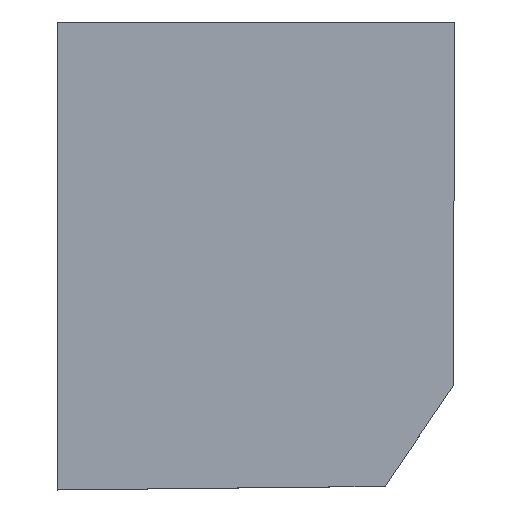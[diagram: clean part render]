
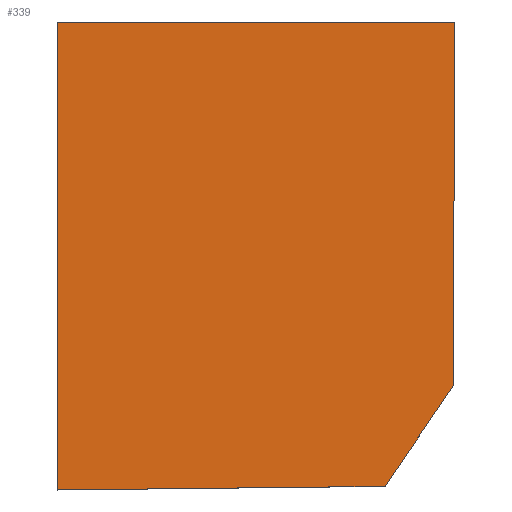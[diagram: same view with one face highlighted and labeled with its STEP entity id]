
A CAD part, top view. The second image highlights one B-rep face of the part: STEP entity #339.
In plain terms, the highlighted planar face has unit normal (0, 0, 1).
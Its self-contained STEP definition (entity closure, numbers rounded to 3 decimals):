
#24 = VERTEX_POINT('',#25);
#25 = CARTESIAN_POINT('',(-31.,-197.,20.));
#32 = PLANE('',#33);
#33 = AXIS2_PLACEMENT_3D('',#34,#35,#36);
#34 = CARTESIAN_POINT('',(-31.,-197.,17.));
#35 = DIRECTION('',(-0.011,1.,0.));
#36 = DIRECTION('',(1.,0.011,0.));
#44 = PLANE('',#45);
#45 = AXIS2_PLACEMENT_3D('',#46,#47,#48);
#46 = CARTESIAN_POINT('',(-31.,197.,17.));
#47 = DIRECTION('',(1.,0.,-0.));
#48 = DIRECTION('',(0.,-1.,0.));
#56 = EDGE_CURVE('',#24,#57,#59,.T.);
#57 = VERTEX_POINT('',#58);
#58 = CARTESIAN_POINT('',(60.,-196.,20.));
#59 = SURFACE_CURVE('',#60,(#64,#71),.PCURVE_S1.);
#60 = LINE('',#61,#62);
#61 = CARTESIAN_POINT('',(-31.,-197.,20.));
#62 = VECTOR('',#63,1.);
#63 = DIRECTION('',(1.,0.011,0.));
#64 = PCURVE('',#32,#65);
#65 = DEFINITIONAL_REPRESENTATION('',(#66),#70);
#66 = LINE('',#67,#68);
#67 = CARTESIAN_POINT('',(0.,-3.));
#68 = VECTOR('',#69,1.);
#69 = DIRECTION('',(1.,0.));
#70 = ( GEOMETRIC_REPRESENTATION_CONTEXT(2) 
PARAMETRIC_REPRESENTATION_CONTEXT() REPRESENTATION_CONTEXT('2D SPACE',''
  ) );
#71 = PCURVE('',#72,#77);
#72 = PLANE('',#73);
#73 = AXIS2_PLACEMENT_3D('',#74,#75,#76);
#74 = CARTESIAN_POINT('',(22.339,0.106,20.));
#75 = DIRECTION('',(0.,0.,1.));
#76 = DIRECTION('',(1.,0.,-0.));
#77 = DEFINITIONAL_REPRESENTATION('',(#78),#82);
#78 = LINE('',#79,#80);
#79 = CARTESIAN_POINT('',(-53.339,-197.106));
#80 = VECTOR('',#81,1.);
#81 = DIRECTION('',(1.,0.011));
#82 = ( GEOMETRIC_REPRESENTATION_CONTEXT(2) 
PARAMETRIC_REPRESENTATION_CONTEXT() REPRESENTATION_CONTEXT('2D SPACE',''
  ) );
#100 = PLANE('',#101);
#101 = AXIS2_PLACEMENT_3D('',#102,#103,#104);
#102 = CARTESIAN_POINT('',(60.,-196.,17.));
#103 = DIRECTION('',(-0.827,0.562,0.));
#104 = DIRECTION('',(0.562,0.827,0.));
#165 = VERTEX_POINT('',#166);
#166 = CARTESIAN_POINT('',(-31.,-67.,20.));
#180 = PLANE('',#181);
#181 = AXIS2_PLACEMENT_3D('',#182,#183,#184);
#182 = CARTESIAN_POINT('',(-60.,-67.,0.));
#183 = DIRECTION('',(-0.,1.,0.));
#184 = DIRECTION('',(0.,0.,1.));
#192 = EDGE_CURVE('',#165,#24,#193,.T.);
#193 = SURFACE_CURVE('',#194,(#198,#205),.PCURVE_S1.);
#194 = LINE('',#195,#196);
#195 = CARTESIAN_POINT('',(-31.,197.,20.));
#196 = VECTOR('',#197,1.);
#197 = DIRECTION('',(0.,-1.,0.));
#198 = PCURVE('',#44,#199);
#199 = DEFINITIONAL_REPRESENTATION('',(#200),#204);
#200 = LINE('',#201,#202);
#201 = CARTESIAN_POINT('',(0.,-3.));
#202 = VECTOR('',#203,1.);
#203 = DIRECTION('',(1.,0.));
#204 = ( GEOMETRIC_REPRESENTATION_CONTEXT(2) 
PARAMETRIC_REPRESENTATION_CONTEXT() REPRESENTATION_CONTEXT('2D SPACE',''
  ) );
#205 = PCURVE('',#72,#206);
#206 = DEFINITIONAL_REPRESENTATION('',(#207),#211);
#207 = LINE('',#208,#209);
#208 = CARTESIAN_POINT('',(-53.339,196.894));
#209 = VECTOR('',#210,1.);
#210 = DIRECTION('',(0.,-1.));
#211 = ( GEOMETRIC_REPRESENTATION_CONTEXT(2) 
PARAMETRIC_REPRESENTATION_CONTEXT() REPRESENTATION_CONTEXT('2D SPACE',''
  ) );
#218 = EDGE_CURVE('',#57,#219,#221,.T.);
#219 = VERTEX_POINT('',#220);
#220 = CARTESIAN_POINT('',(79.,-168.,20.));
#221 = SURFACE_CURVE('',#222,(#226,#233),.PCURVE_S1.);
#222 = LINE('',#223,#224);
#223 = CARTESIAN_POINT('',(60.,-196.,20.));
#224 = VECTOR('',#225,1.);
#225 = DIRECTION('',(0.562,0.827,0.));
#226 = PCURVE('',#100,#227);
#227 = DEFINITIONAL_REPRESENTATION('',(#228),#232);
#228 = LINE('',#229,#230);
#229 = CARTESIAN_POINT('',(0.,-3.));
#230 = VECTOR('',#231,1.);
#231 = DIRECTION('',(1.,0.));
#232 = ( GEOMETRIC_REPRESENTATION_CONTEXT(2) 
PARAMETRIC_REPRESENTATION_CONTEXT() REPRESENTATION_CONTEXT('2D SPACE',''
  ) );
#233 = PCURVE('',#72,#234);
#234 = DEFINITIONAL_REPRESENTATION('',(#235),#239);
#235 = LINE('',#236,#237);
#236 = CARTESIAN_POINT('',(37.661,-196.106));
#237 = VECTOR('',#238,1.);
#238 = DIRECTION('',(0.562,0.827));
#239 = ( GEOMETRIC_REPRESENTATION_CONTEXT(2) 
PARAMETRIC_REPRESENTATION_CONTEXT() REPRESENTATION_CONTEXT('2D SPACE',''
  ) );
#257 = PLANE('',#258);
#258 = AXIS2_PLACEMENT_3D('',#259,#260,#261);
#259 = CARTESIAN_POINT('',(79.,-168.,17.));
#260 = DIRECTION('',(-1.,0.003,0.));
#261 = DIRECTION('',(0.003,1.,0.));
#339 = ADVANCED_FACE('',(#340),#72,.T.);
#340 = FACE_BOUND('',#341,.T.);
#341 = EDGE_LOOP('',(#342,#343,#344,#345,#368));
#342 = ORIENTED_EDGE('',*,*,#192,.T.);
#343 = ORIENTED_EDGE('',*,*,#56,.T.);
#344 = ORIENTED_EDGE('',*,*,#218,.T.);
#345 = ORIENTED_EDGE('',*,*,#346,.T.);
#346 = EDGE_CURVE('',#219,#347,#349,.T.);
#347 = VERTEX_POINT('',#348);
#348 = CARTESIAN_POINT('',(79.301,-67.,20.));
#349 = SURFACE_CURVE('',#350,(#354,#361),.PCURVE_S1.);
#350 = LINE('',#351,#352);
#351 = CARTESIAN_POINT('',(79.,-168.,20.));
#352 = VECTOR('',#353,1.);
#353 = DIRECTION('',(0.003,1.,0.));
#354 = PCURVE('',#72,#355);
#355 = DEFINITIONAL_REPRESENTATION('',(#356),#360);
#356 = LINE('',#357,#358);
#357 = CARTESIAN_POINT('',(56.661,-168.106));
#358 = VECTOR('',#359,1.);
#359 = DIRECTION('',(0.003,1.));
#360 = ( GEOMETRIC_REPRESENTATION_CONTEXT(2) 
PARAMETRIC_REPRESENTATION_CONTEXT() REPRESENTATION_CONTEXT('2D SPACE',''
  ) );
#361 = PCURVE('',#257,#362);
#362 = DEFINITIONAL_REPRESENTATION('',(#363),#367);
#363 = LINE('',#364,#365);
#364 = CARTESIAN_POINT('',(0.,-3.));
#365 = VECTOR('',#366,1.);
#366 = DIRECTION('',(1.,0.));
#367 = ( GEOMETRIC_REPRESENTATION_CONTEXT(2) 
PARAMETRIC_REPRESENTATION_CONTEXT() REPRESENTATION_CONTEXT('2D SPACE',''
  ) );
#368 = ORIENTED_EDGE('',*,*,#369,.T.);
#369 = EDGE_CURVE('',#347,#165,#370,.T.);
#370 = SURFACE_CURVE('',#371,(#375,#382),.PCURVE_S1.);
#371 = LINE('',#372,#373);
#372 = CARTESIAN_POINT('',(-18.831,-67.,20.));
#373 = VECTOR('',#374,1.);
#374 = DIRECTION('',(-1.,-0.,0.));
#375 = PCURVE('',#72,#376);
#376 = DEFINITIONAL_REPRESENTATION('',(#377),#381);
#377 = LINE('',#378,#379);
#378 = CARTESIAN_POINT('',(-41.169,-67.106));
#379 = VECTOR('',#380,1.);
#380 = DIRECTION('',(-1.,0.));
#381 = ( GEOMETRIC_REPRESENTATION_CONTEXT(2) 
PARAMETRIC_REPRESENTATION_CONTEXT() REPRESENTATION_CONTEXT('2D SPACE',''
  ) );
#382 = PCURVE('',#180,#383);
#383 = DEFINITIONAL_REPRESENTATION('',(#384),#388);
#384 = LINE('',#385,#386);
#385 = CARTESIAN_POINT('',(20.,41.169));
#386 = VECTOR('',#387,1.);
#387 = DIRECTION('',(0.,-1.));
#388 = ( GEOMETRIC_REPRESENTATION_CONTEXT(2) 
PARAMETRIC_REPRESENTATION_CONTEXT() REPRESENTATION_CONTEXT('2D SPACE',''
  ) );
